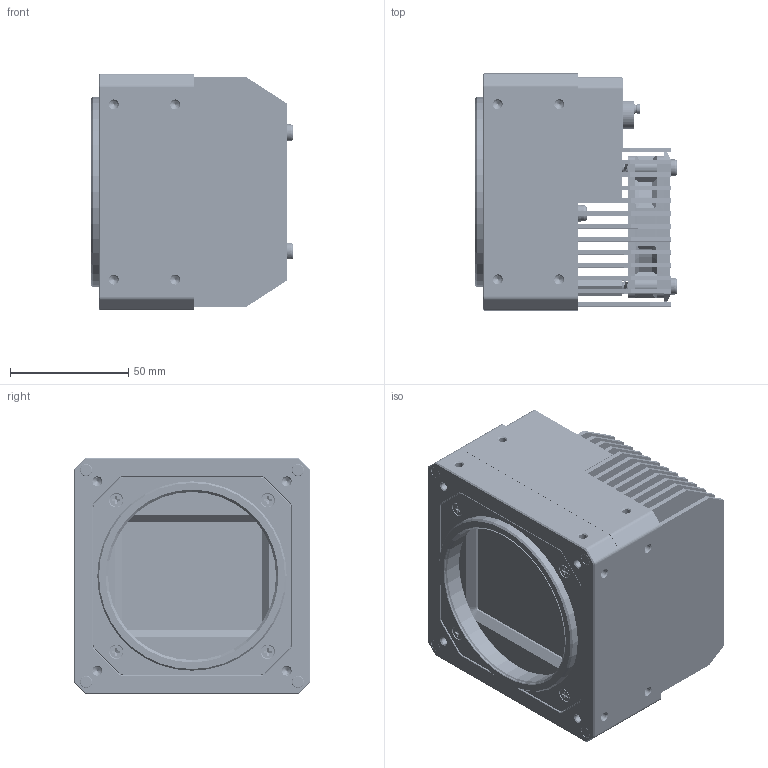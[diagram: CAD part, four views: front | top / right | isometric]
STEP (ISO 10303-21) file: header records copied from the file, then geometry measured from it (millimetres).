
FILE_DESCRIPTION((''),'2;1');
FILE_NAME('00-MV-CH1510-11XM-V2_ASM_ASM','2025-02-14T15:04:06',('wangyijun6'),(''),'CREO PARAMETRIC BY PTC INC, 2020044','CREO PARAMETRIC BY PTC INC, 2020044','');
FILE_SCHEMA(('CONFIG_CONTROL_DESIGN'));
Products named in the file (1): 00-MV-CH1510-11XM-V2_ASM_ASM
Bounding box: 85.45 x 100 x 100 mm (x, y, z)
Volume: 466095.8 mm3; surface area: 199316.5 mm2
Topology: 3 solids, 103 shells, 4201 faces, 11249 edges, 7177 vertices
Faces by surface type: plane 1758, cylinder 1488, cone 555, bspline 227, torus 143, extrusion 24, revolution 6
Entity records: 248535 total; most frequent: CARTESIAN_POINT 145426, ORIENTED_EDGE 22002, DIRECTION 20759, EDGE_CURVE 11151, AXIS2_PLACEMENT_3D 7584, VERTEX_POINT 7177, VECTOR 5585, LINE 5561
